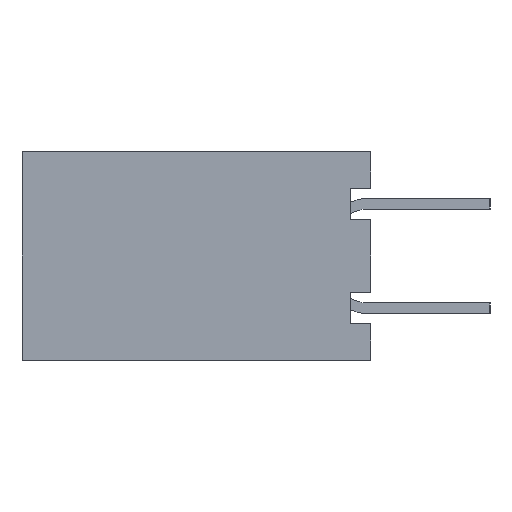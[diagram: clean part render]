
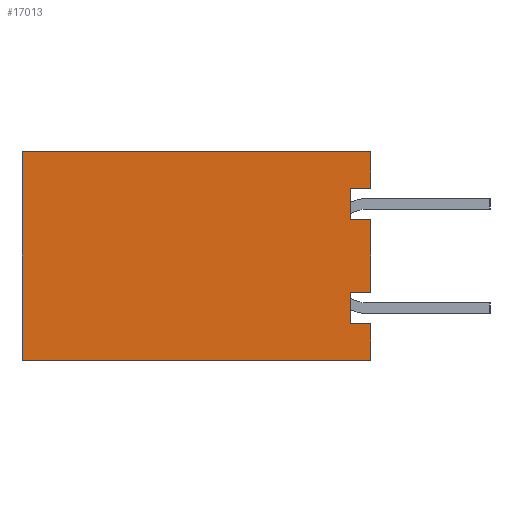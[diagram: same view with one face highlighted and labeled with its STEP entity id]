
A CAD part, left-side view. The second image highlights one B-rep face of the part: STEP entity #17013.
In plain terms, the highlighted planar face has unit normal (-1, 0, 0).
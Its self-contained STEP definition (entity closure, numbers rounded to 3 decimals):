
#17=DIRECTION('',(0.,-1.,0.));
#18=VECTOR('',#17,8.5);
#19=CARTESIAN_POINT('',(-15.24,4.25,-2.54));
#20=LINE('',#19,#18);
#1245=DIRECTION('',(0.,0.,1.));
#1246=VECTOR('',#1245,0.889);
#1247=CARTESIAN_POINT('',(-15.24,-4.25,-2.54));
#1248=LINE('',#1247,#1246);
#1261=DIRECTION('',(0.,0.,1.));
#1262=VECTOR('',#1261,0.889);
#1263=CARTESIAN_POINT('',(-15.24,-4.25,1.651));
#1264=LINE('',#1263,#1262);
#1273=DIRECTION('',(0.,0.,1.));
#1274=VECTOR('',#1273,1.778);
#1275=CARTESIAN_POINT('',(-15.24,-4.25,-0.889));
#1276=LINE('',#1275,#1274);
#1749=DIRECTION('',(0.,1.,0.));
#1750=VECTOR('',#1749,0.5);
#1751=CARTESIAN_POINT('',(-15.24,-4.25,0.889));
#1752=LINE('',#1751,#1750);
#1753=DIRECTION('',(0.,1.,0.));
#1754=VECTOR('',#1753,0.5);
#1755=CARTESIAN_POINT('',(-15.24,-4.25,-0.889));
#1756=LINE('',#1755,#1754);
#1757=DIRECTION('',(0.,0.,1.));
#1758=VECTOR('',#1757,0.762);
#1759=CARTESIAN_POINT('',(-15.24,-3.75,-1.651));
#1760=LINE('',#1759,#1758);
#1761=DIRECTION('',(0.,1.,0.));
#1762=VECTOR('',#1761,0.5);
#1763=CARTESIAN_POINT('',(-15.24,-4.25,-1.651));
#1764=LINE('',#1763,#1762);
#1765=DIRECTION('',(0.,0.,1.));
#1766=VECTOR('',#1765,5.08);
#1767=CARTESIAN_POINT('',(-15.24,4.25,-2.54));
#1768=LINE('',#1767,#1766);
#1769=DIRECTION('',(0.,1.,0.));
#1770=VECTOR('',#1769,0.5);
#1771=CARTESIAN_POINT('',(-15.24,-4.25,1.651));
#1772=LINE('',#1771,#1770);
#1773=DIRECTION('',(0.,0.,1.));
#1774=VECTOR('',#1773,0.762);
#1775=CARTESIAN_POINT('',(-15.24,-3.75,0.889));
#1776=LINE('',#1775,#1774);
#2029=DIRECTION('',(0.,-1.,0.));
#2030=VECTOR('',#2029,8.5);
#2031=CARTESIAN_POINT('',(-15.24,4.25,2.54));
#2032=LINE('',#2031,#2030);
#11321=CARTESIAN_POINT('',(-15.24,4.25,-2.54));
#11322=CARTESIAN_POINT('',(-15.24,-4.25,-2.54));
#11323=VERTEX_POINT('',#11321);
#11324=VERTEX_POINT('',#11322);
#11329=CARTESIAN_POINT('',(-15.24,4.25,2.54));
#11330=CARTESIAN_POINT('',(-15.24,-4.25,2.54));
#11331=VERTEX_POINT('',#11329);
#11332=VERTEX_POINT('',#11330);
#11381=CARTESIAN_POINT('',(-15.24,-4.25,0.889));
#11382=CARTESIAN_POINT('',(-15.24,-3.75,0.889));
#11383=VERTEX_POINT('',#11381);
#11384=VERTEX_POINT('',#11382);
#11385=CARTESIAN_POINT('',(-15.24,-3.75,1.651));
#11386=VERTEX_POINT('',#11385);
#11387=CARTESIAN_POINT('',(-15.24,-4.25,1.651));
#11388=VERTEX_POINT('',#11387);
#11389=CARTESIAN_POINT('',(-15.24,-4.25,-1.651));
#11390=CARTESIAN_POINT('',(-15.24,-3.75,-1.651));
#11391=VERTEX_POINT('',#11389);
#11392=VERTEX_POINT('',#11390);
#11393=CARTESIAN_POINT('',(-15.24,-3.75,-0.889));
#11394=VERTEX_POINT('',#11393);
#11395=CARTESIAN_POINT('',(-15.24,-4.25,-0.889));
#11396=VERTEX_POINT('',#11395);
#16989=CARTESIAN_POINT('',(-15.24,4.25,-2.54));
#16990=DIRECTION('',(-1.,0.,0.));
#16991=DIRECTION('',(0.,-1.,0.));
#16992=AXIS2_PLACEMENT_3D('',#16989,#16990,#16991);
#16993=PLANE('',#16992);
#16995=ORIENTED_EDGE('',*,*,#16994,.F.);
#16996=ORIENTED_EDGE('',*,*,#16439,.F.);
#16998=ORIENTED_EDGE('',*,*,#16997,.T.);
#16999=ORIENTED_EDGE('',*,*,#15125,.F.);
#17000=ORIENTED_EDGE('',*,*,#15041,.F.);
#17001=ORIENTED_EDGE('',*,*,#16410,.F.);
#17002=ORIENTED_EDGE('',*,*,#14758,.F.);
#17004=ORIENTED_EDGE('',*,*,#17003,.T.);
#17006=ORIENTED_EDGE('',*,*,#17005,.T.);
#17007=ORIENTED_EDGE('',*,*,#16426,.F.);
#17009=ORIENTED_EDGE('',*,*,#17008,.T.);
#17010=ORIENTED_EDGE('',*,*,#15510,.F.);
#17011=EDGE_LOOP('',(#16995,#16996,#16998,#16999,#17000,#17001,#17002,#17004,
#17006,#17007,#17009,#17010));
#17012=FACE_OUTER_BOUND('',#17011,.F.);
#17013=ADVANCED_FACE('',(#17012),#16993,.T.);
#14758=EDGE_CURVE('',#11323,#11324,#20,.T.);
#15041=EDGE_CURVE('',#11391,#11392,#1764,.T.);
#15125=EDGE_CURVE('',#11392,#11394,#1760,.T.);
#15510=EDGE_CURVE('',#11384,#11386,#1776,.T.);
#16410=EDGE_CURVE('',#11324,#11391,#1248,.T.);
#16426=EDGE_CURVE('',#11388,#11332,#1264,.T.);
#16439=EDGE_CURVE('',#11396,#11383,#1276,.T.);
#16994=EDGE_CURVE('',#11383,#11384,#1752,.T.);
#16997=EDGE_CURVE('',#11396,#11394,#1756,.T.);
#17003=EDGE_CURVE('',#11323,#11331,#1768,.T.);
#17005=EDGE_CURVE('',#11331,#11332,#2032,.T.);
#17008=EDGE_CURVE('',#11388,#11386,#1772,.T.);
